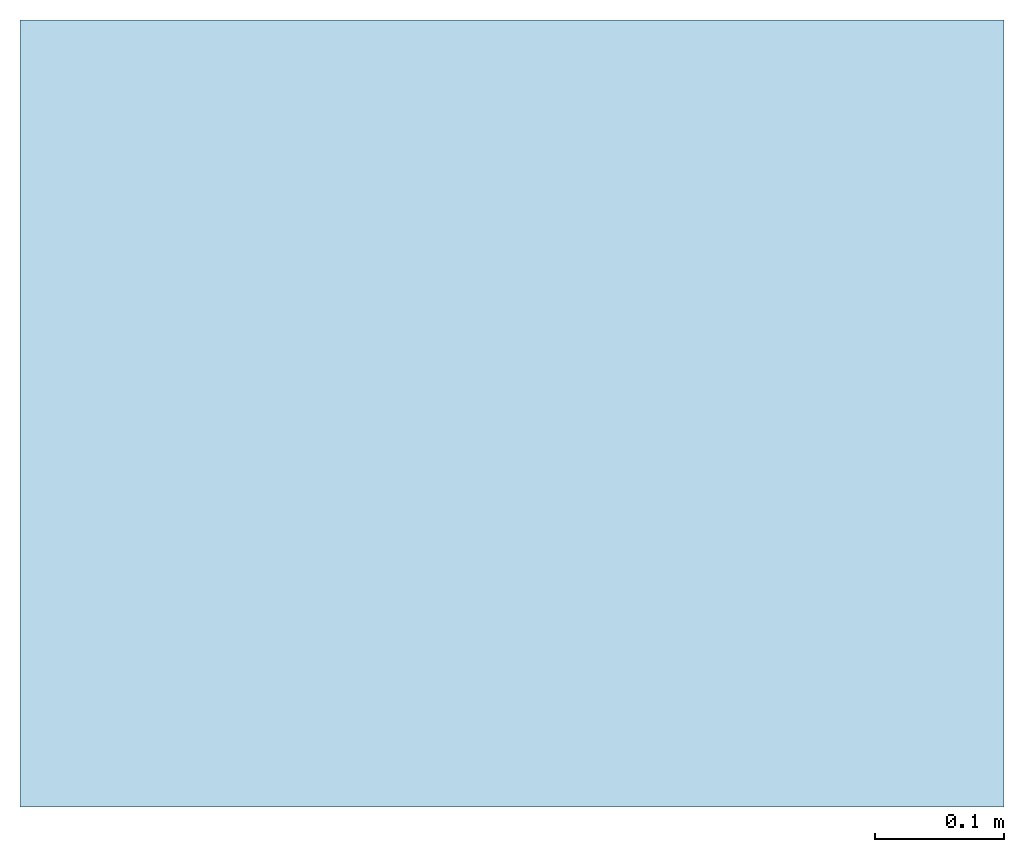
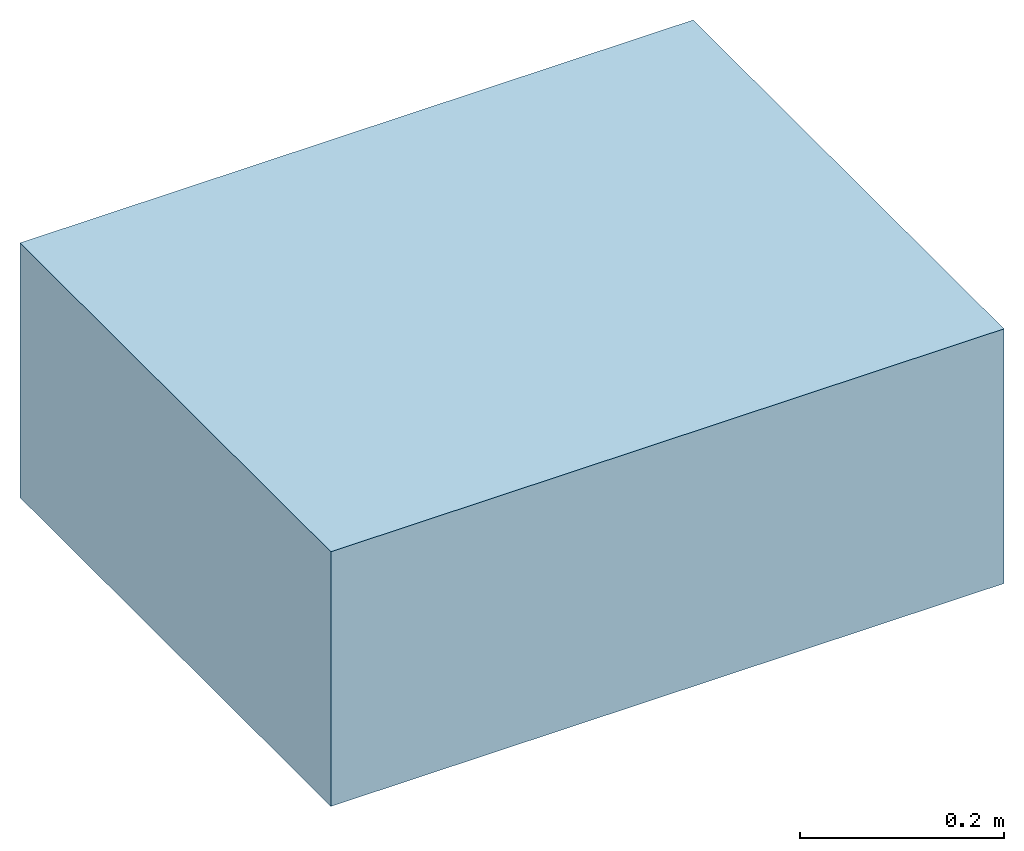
# One storey: 1 slab.
"""IFC2X3 building model written with IfcOpenShell, lengths in feet."""

from ifc_helpers import new_model, entity, si_unit, converted_unit, derived_unit, direction, frame, origin, origin_2d_with_axis, place, context, subcontext, project, spatial, rectangle, extrude, material, layer, layer_set, layer_usage, type_object, element, save


model = new_model("IFC2X3")

# Units and contexts
model_context = context("Model", 3, precision=0.0001, world=origin(), true_north=direction((6.12303176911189e-17, 1.0)))
body_context = subcontext(model_context, "Body", "Model", "MODEL_VIEW")
ifc_project = project(units=[converted_unit("LENGTHUNIT", "FOOT", entity("IfcRatioMeasure", 0.3048), si_unit("LENGTHUNIT", "METRE"), dimensions=[1, 0, 0, 0, 0, 0, 0]), converted_unit("AREAUNIT", "SQUARE FOOT", entity("IfcRatioMeasure", 0.09290304), si_unit("AREAUNIT", "SQUARE_METRE"), dimensions=[2, 0, 0, 0, 0, 0, 0]), converted_unit("VOLUMEUNIT", "CUBIC FOOT", entity("IfcRatioMeasure", 0.028316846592), si_unit("VOLUMEUNIT", "CUBIC_METRE"), dimensions=[3, 0, 0, 0, 0, 0, 0]), converted_unit("PLANEANGLEUNIT", "DEGREE", entity("IfcRatioMeasure", 0.0174532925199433), si_unit("PLANEANGLEUNIT", "RADIAN"), dimensions=[0, 0, 0, 0, 0, 0, 0]), si_unit("MASSUNIT", "GRAM", prefix="KILO"), derived_unit("MASSDENSITYUNIT", [(si_unit("MASSUNIT", "GRAM", prefix="KILO"), 1), (si_unit("LENGTHUNIT", "METRE"), -3)]), si_unit("TIMEUNIT", "SECOND"), si_unit("FREQUENCYUNIT", "HERTZ"), si_unit("THERMODYNAMICTEMPERATUREUNIT", "DEGREE_CELSIUS"), derived_unit("THERMALTRANSMITTANCEUNIT", [(si_unit("MASSUNIT", "GRAM", prefix="KILO"), 1), (si_unit("THERMODYNAMICTEMPERATUREUNIT", "KELVIN"), -1), (si_unit("TIMEUNIT", "SECOND"), -3)]), derived_unit("VOLUMETRICFLOWRATEUNIT", [(si_unit("LENGTHUNIT", "METRE"), 3), (si_unit("TIMEUNIT", "SECOND"), -1)]), si_unit("ELECTRICCURRENTUNIT", "AMPERE"), si_unit("ELECTRICVOLTAGEUNIT", "VOLT"), si_unit("POWERUNIT", "WATT"), si_unit("FORCEUNIT", "NEWTON"), si_unit("ILLUMINANCEUNIT", "LUX"), si_unit("LUMINOUSFLUXUNIT", "LUMEN"), si_unit("LUMINOUSINTENSITYUNIT", "CANDELA"), derived_unit("USERDEFINED", [(si_unit("MASSUNIT", "GRAM", prefix="KILO"), -1), (si_unit("LENGTHUNIT", "METRE"), -2), (si_unit("TIMEUNIT", "SECOND"), 3), (si_unit("LUMINOUSFLUXUNIT", "LUMEN"), 1)]), derived_unit("LINEARVELOCITYUNIT", [(si_unit("LENGTHUNIT", "METRE"), 1), (si_unit("TIMEUNIT", "SECOND"), -1)]), si_unit("PRESSUREUNIT", "PASCAL"), derived_unit("USERDEFINED", [(si_unit("LENGTHUNIT", "METRE"), -2), (si_unit("MASSUNIT", "GRAM", prefix="KILO"), 1), (si_unit("TIMEUNIT", "SECOND"), -2)])], contexts=[model_context])

# Site, building, storey
site_placement = place(None, origin())
site = spatial("IfcSite", under=ifc_project, at=site_placement, Name="Default", CompositionType="ELEMENT")
building_placement = place(site_placement, origin())
building = spatial("IfcBuilding", under=site, at=building_placement, CompositionType="ELEMENT")
storey_placement = place(building_placement, origin())
storey = spatial("IfcBuildingStorey", under=building, at=storey_placement, Name="Level 1", CompositionType="ELEMENT", Elevation=0.0)

# Slab
ifc_material = material(Name="Default Floor")
ifc_layer = layer(ifc_material, 1.0)
ifc_layer_set = layer_set([ifc_layer], Name="Floor:Generic - 12\"")
ifc_layer_usage = layer_usage(ifc_layer_set, "AXIS3", "POSITIVE", 0.0)
slab_type = type_object("IfcSlabType", Name="Floor:Generic - 12\"", PredefinedType="FLOOR", material=ifc_layer_set)
slab_placement = place(storey_placement, origin())
element("IfcSlab", 1, at=slab_placement, inside=storey, type_object=slab_type, material=ifc_layer_usage, Name="Floor:Generic - 12\"", ObjectType="Floor:Generic - 12\"", PredefinedType="FLOOR", context=body_context, shape_type="SweptSolid", body=[
    extrude(rectangle(XDim=2.0, YDim=2.5, at=origin_2d_with_axis()), frame((-9.00229755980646, 9.81596641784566, 0.0), z_axis=(0.0, 0.0, -1.0), x_axis=(0.0, 1.0, 0.0)), (0.0, 0.0, 1.0), 1.0),
])

save(model, "model.ifc")
